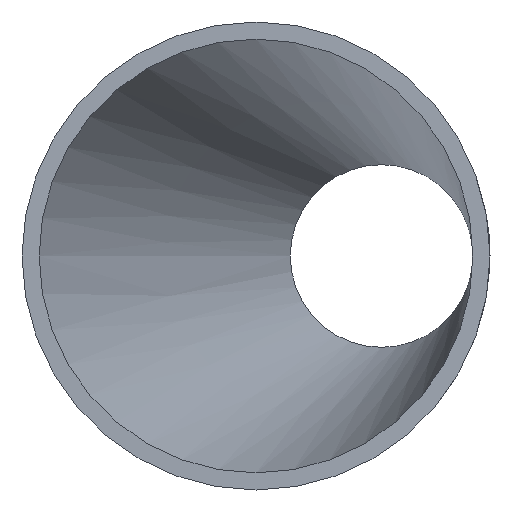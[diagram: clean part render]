
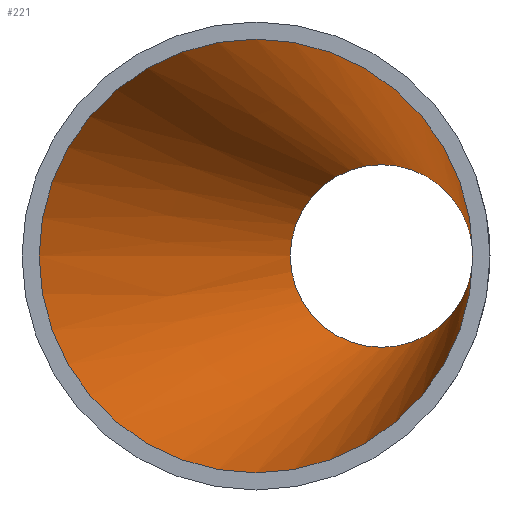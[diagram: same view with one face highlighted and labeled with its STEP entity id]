
A CAD part, left-side view. The second image highlights one B-rep face of the part: STEP entity #221.
In plain terms, the highlighted free-form (B-spline) face has degree [14, 1] with [15, 2] control points.
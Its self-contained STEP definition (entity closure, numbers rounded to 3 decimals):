
#69 = PLANE('',#70);
#70 = AXIS2_PLACEMENT_3D('',#71,#72,#73);
#71 = CARTESIAN_POINT('',(0.,0.,0.));
#72 = DIRECTION('',(1.,0.,0.));
#73 = DIRECTION('',(0.,1.,0.));
#118 = PLANE('',#119);
#119 = AXIS2_PLACEMENT_3D('',#120,#121,#122);
#120 = CARTESIAN_POINT('',(60.5,-11.,0.));
#121 = DIRECTION('',(1.,0.,0.));
#122 = DIRECTION('',(0.,1.,0.));
#137 = EDGE_CURVE('',#138,#138,#140,.T.);
#138 = VERTEX_POINT('',#139);
#139 = CARTESIAN_POINT('',(0.,19.,0.));
#140 = SURFACE_CURVE('',#141,(#146,#153),.PCURVE_S1.);
#141 = CIRCLE('',#142,19.);
#142 = AXIS2_PLACEMENT_3D('',#143,#144,#145);
#143 = CARTESIAN_POINT('',(0.,0.,0.));
#144 = DIRECTION('',(1.,0.,0.));
#145 = DIRECTION('',(0.,1.,0.));
#146 = PCURVE('',#69,#147);
#147 = DEFINITIONAL_REPRESENTATION('',(#148),#152);
#148 = CIRCLE('',#149,19.);
#149 = AXIS2_PLACEMENT_2D('',#150,#151);
#150 = CARTESIAN_POINT('',(0.,0.));
#151 = DIRECTION('',(1.,0.));
#152 = ( GEOMETRIC_REPRESENTATION_CONTEXT(2) 
PARAMETRIC_REPRESENTATION_CONTEXT() REPRESENTATION_CONTEXT('2D SPACE',''
  ) );
#153 = PCURVE('',#154,#185);
#154 = B_SPLINE_SURFACE_WITH_KNOTS('',14,1,(
    (#155,#156)
    ,(#157,#158)
    ,(#159,#160)
    ,(#161,#162)
    ,(#163,#164)
    ,(#165,#166)
    ,(#167,#168)
    ,(#169,#170)
    ,(#171,#172)
    ,(#173,#174)
    ,(#175,#176)
    ,(#177,#178)
    ,(#179,#180)
    ,(#181,#182)
    ,(#183,#184
    )),.UNSPECIFIED.,.T.,.F.,.F.,(15,15),(2,2),(0.,6.283),(0.,1.
    ),.PIECEWISE_BEZIER_KNOTS.);
#155 = CARTESIAN_POINT('',(0.,19.,0.));
#156 = CARTESIAN_POINT('',(60.5,-3.,0.));
#157 = CARTESIAN_POINT('',(0.,19.,8.527));
#158 = CARTESIAN_POINT('',(60.5,-3.,3.59));
#159 = CARTESIAN_POINT('',(0.,14.879,17.054));
#160 = CARTESIAN_POINT('',(60.5,-4.735,7.181
    ));
#161 = CARTESIAN_POINT('',(0.,6.636,23.424));
#162 = CARTESIAN_POINT('',(60.5,-8.206,9.863
    ));
#163 = CARTESIAN_POINT('',(0.,-4.496,25.477));
#164 = CARTESIAN_POINT('',(60.5,-12.893,
    10.727));
#165 = CARTESIAN_POINT('',(0.,-16.051,21.831));
#166 = CARTESIAN_POINT('',(60.5,-17.758,
    9.192));
#167 = CARTESIAN_POINT('',(0.,-24.872,12.652));
#168 = CARTESIAN_POINT('',(60.5,-21.472,
    5.327));
#169 = CARTESIAN_POINT('',(0.,-28.193,0.));
#170 = CARTESIAN_POINT('',(60.5,-22.871,
    0.));
#171 = CARTESIAN_POINT('',(0.,-24.872,-12.652));
#172 = CARTESIAN_POINT('',(60.5,-21.472,
    -5.327));
#173 = CARTESIAN_POINT('',(0.,-16.051,-21.831));
#174 = CARTESIAN_POINT('',(60.5,-17.758,
    -9.192));
#175 = CARTESIAN_POINT('',(0.,-4.496,-25.477));
#176 = CARTESIAN_POINT('',(60.5,-12.893,
    -10.727));
#177 = CARTESIAN_POINT('',(0.,6.636,-23.424));
#178 = CARTESIAN_POINT('',(60.5,-8.206,
    -9.863));
#179 = CARTESIAN_POINT('',(0.,14.879,-17.054));
#180 = CARTESIAN_POINT('',(60.5,-4.735,
    -7.181));
#181 = CARTESIAN_POINT('',(0.,19.,-8.527));
#182 = CARTESIAN_POINT('',(60.5,-3.,-3.59)
  );
#183 = CARTESIAN_POINT('',(0.,19.,0.));
#184 = CARTESIAN_POINT('',(60.5,-3.,0.));
#185 = DEFINITIONAL_REPRESENTATION('',(#186),#190);
#186 = LINE('',#187,#188);
#187 = CARTESIAN_POINT('',(0.,0.));
#188 = VECTOR('',#189,1.);
#189 = DIRECTION('',(1.,0.));
#190 = ( GEOMETRIC_REPRESENTATION_CONTEXT(2) 
PARAMETRIC_REPRESENTATION_CONTEXT() REPRESENTATION_CONTEXT('2D SPACE',''
  ) );
#198 = EDGE_CURVE('',#199,#199,#201,.T.);
#199 = VERTEX_POINT('',#200);
#200 = CARTESIAN_POINT('',(60.5,-3.,0.));
#201 = SURFACE_CURVE('',#202,(#207,#214),.PCURVE_S1.);
#202 = CIRCLE('',#203,8.);
#203 = AXIS2_PLACEMENT_3D('',#204,#205,#206);
#204 = CARTESIAN_POINT('',(60.5,-11.,0.));
#205 = DIRECTION('',(1.,0.,0.));
#206 = DIRECTION('',(0.,1.,0.));
#207 = PCURVE('',#118,#208);
#208 = DEFINITIONAL_REPRESENTATION('',(#209),#213);
#209 = CIRCLE('',#210,8.);
#210 = AXIS2_PLACEMENT_2D('',#211,#212);
#211 = CARTESIAN_POINT('',(0.,0.));
#212 = DIRECTION('',(1.,0.));
#213 = ( GEOMETRIC_REPRESENTATION_CONTEXT(2) 
PARAMETRIC_REPRESENTATION_CONTEXT() REPRESENTATION_CONTEXT('2D SPACE',''
  ) );
#214 = PCURVE('',#154,#215);
#215 = DEFINITIONAL_REPRESENTATION('',(#216),#220);
#216 = LINE('',#217,#218);
#217 = CARTESIAN_POINT('',(0.,1.));
#218 = VECTOR('',#219,1.);
#219 = DIRECTION('',(1.,0.));
#220 = ( GEOMETRIC_REPRESENTATION_CONTEXT(2) 
PARAMETRIC_REPRESENTATION_CONTEXT() REPRESENTATION_CONTEXT('2D SPACE',''
  ) );
#221 = ADVANCED_FACE('',(#222),#154,.F.);
#222 = FACE_BOUND('',#223,.F.);
#223 = EDGE_LOOP('',(#224,#244,#245,#246));
#224 = ORIENTED_EDGE('',*,*,#225,.F.);
#225 = EDGE_CURVE('',#138,#199,#226,.T.);
#226 = SEAM_CURVE('',#227,(#230,#237),.PCURVE_S1.);
#227 = B_SPLINE_CURVE_WITH_KNOTS('',1,(#228,#229),.UNSPECIFIED.,.F.,.F.,
  (2,2),(0.,1.),.PIECEWISE_BEZIER_KNOTS.);
#228 = CARTESIAN_POINT('',(0.,19.,0.));
#229 = CARTESIAN_POINT('',(60.5,-3.,0.));
#230 = PCURVE('',#154,#231);
#231 = DEFINITIONAL_REPRESENTATION('',(#232),#236);
#232 = LINE('',#233,#234);
#233 = CARTESIAN_POINT('',(0.,0.));
#234 = VECTOR('',#235,1.);
#235 = DIRECTION('',(0.,1.));
#236 = ( GEOMETRIC_REPRESENTATION_CONTEXT(2) 
PARAMETRIC_REPRESENTATION_CONTEXT() REPRESENTATION_CONTEXT('2D SPACE',''
  ) );
#237 = PCURVE('',#154,#238);
#238 = DEFINITIONAL_REPRESENTATION('',(#239),#243);
#239 = LINE('',#240,#241);
#240 = CARTESIAN_POINT('',(6.283,0.));
#241 = VECTOR('',#242,1.);
#242 = DIRECTION('',(0.,1.));
#243 = ( GEOMETRIC_REPRESENTATION_CONTEXT(2) 
PARAMETRIC_REPRESENTATION_CONTEXT() REPRESENTATION_CONTEXT('2D SPACE',''
  ) );
#244 = ORIENTED_EDGE('',*,*,#137,.T.);
#245 = ORIENTED_EDGE('',*,*,#225,.T.);
#246 = ORIENTED_EDGE('',*,*,#198,.F.);
